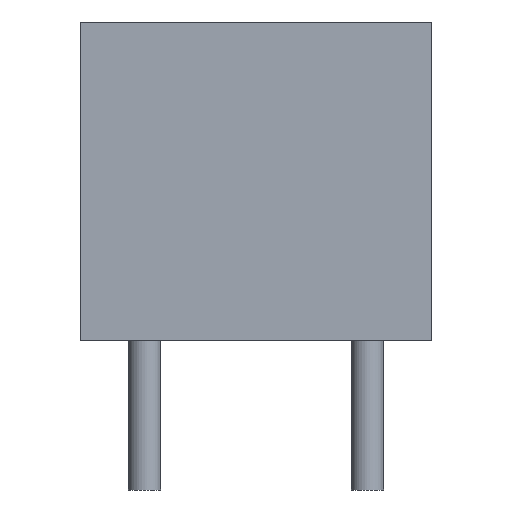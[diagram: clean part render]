
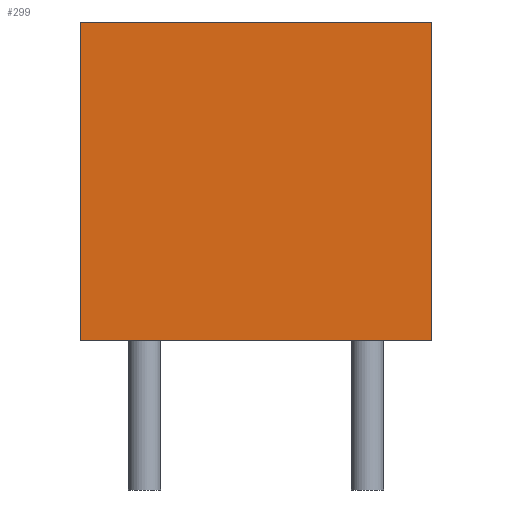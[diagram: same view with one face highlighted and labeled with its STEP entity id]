
A CAD part, left-side view. The second image highlights one B-rep face of the part: STEP entity #299.
In plain terms, the highlighted planar face has unit normal (-1, 0, 0).
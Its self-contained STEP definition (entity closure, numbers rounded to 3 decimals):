
#36 = EDGE_CURVE('',#37,#39,#41,.T.);
#37 = VERTEX_POINT('',#38);
#38 = CARTESIAN_POINT('',(-1.3,9.81,0.));
#39 = VERTEX_POINT('',#40);
#40 = CARTESIAN_POINT('',(-1.3,9.81,10.9));
#41 = SURFACE_CURVE('',#42,(#46,#58),.PCURVE_S1.);
#42 = LINE('',#43,#44);
#43 = CARTESIAN_POINT('',(-1.3,9.81,0.));
#44 = VECTOR('',#45,1.);
#45 = DIRECTION('',(0.,0.,1.));
#46 = PCURVE('',#47,#52);
#47 = PLANE('',#48);
#48 = AXIS2_PLACEMENT_3D('',#49,#50,#51);
#49 = CARTESIAN_POINT('',(-1.3,9.81,0.));
#50 = DIRECTION('',(0.,1.,0.));
#51 = DIRECTION('',(1.,0.,0.));
#52 = DEFINITIONAL_REPRESENTATION('',(#53),#57);
#53 = LINE('',#54,#55);
#54 = CARTESIAN_POINT('',(0.,0.));
#55 = VECTOR('',#56,1.);
#56 = DIRECTION('',(0.,-1.));
#57 = ( GEOMETRIC_REPRESENTATION_CONTEXT(2) 
PARAMETRIC_REPRESENTATION_CONTEXT() REPRESENTATION_CONTEXT('2D SPACE',''
  ) );
#58 = PCURVE('',#59,#64);
#59 = PLANE('',#60);
#60 = AXIS2_PLACEMENT_3D('',#61,#62,#63);
#61 = CARTESIAN_POINT('',(-1.3,-2.19,0.));
#62 = DIRECTION('',(-1.,0.,0.));
#63 = DIRECTION('',(0.,1.,0.));
#64 = DEFINITIONAL_REPRESENTATION('',(#65),#69);
#65 = LINE('',#66,#67);
#66 = CARTESIAN_POINT('',(12.,0.));
#67 = VECTOR('',#68,1.);
#68 = DIRECTION('',(0.,-1.));
#69 = ( GEOMETRIC_REPRESENTATION_CONTEXT(2) 
PARAMETRIC_REPRESENTATION_CONTEXT() REPRESENTATION_CONTEXT('2D SPACE',''
  ) );
#87 = PLANE('',#88);
#88 = AXIS2_PLACEMENT_3D('',#89,#90,#91);
#89 = CARTESIAN_POINT('',(12.7,3.81,10.9));
#90 = DIRECTION('',(-0.,-0.,-1.));
#91 = DIRECTION('',(-1.,0.,0.));
#141 = PLANE('',#142);
#142 = AXIS2_PLACEMENT_3D('',#143,#144,#145);
#143 = CARTESIAN_POINT('',(12.7,3.81,0.));
#144 = DIRECTION('',(-0.,-0.,-1.));
#145 = DIRECTION('',(-1.,0.,0.));
#196 = PLANE('',#197);
#197 = AXIS2_PLACEMENT_3D('',#198,#199,#200);
#198 = CARTESIAN_POINT('',(26.7,-2.19,0.));
#199 = DIRECTION('',(0.,-1.,0.));
#200 = DIRECTION('',(-1.,0.,0.));
#234 = VERTEX_POINT('',#235);
#235 = CARTESIAN_POINT('',(-1.3,-2.19,10.9));
#256 = EDGE_CURVE('',#257,#234,#259,.T.);
#257 = VERTEX_POINT('',#258);
#258 = CARTESIAN_POINT('',(-1.3,-2.19,0.));
#259 = SURFACE_CURVE('',#260,(#264,#271),.PCURVE_S1.);
#260 = LINE('',#261,#262);
#261 = CARTESIAN_POINT('',(-1.3,-2.19,0.));
#262 = VECTOR('',#263,1.);
#263 = DIRECTION('',(0.,0.,1.));
#264 = PCURVE('',#196,#265);
#265 = DEFINITIONAL_REPRESENTATION('',(#266),#270);
#266 = LINE('',#267,#268);
#267 = CARTESIAN_POINT('',(28.,0.));
#268 = VECTOR('',#269,1.);
#269 = DIRECTION('',(0.,-1.));
#270 = ( GEOMETRIC_REPRESENTATION_CONTEXT(2) 
PARAMETRIC_REPRESENTATION_CONTEXT() REPRESENTATION_CONTEXT('2D SPACE',''
  ) );
#271 = PCURVE('',#59,#272);
#272 = DEFINITIONAL_REPRESENTATION('',(#273),#277);
#273 = LINE('',#274,#275);
#274 = CARTESIAN_POINT('',(0.,0.));
#275 = VECTOR('',#276,1.);
#276 = DIRECTION('',(0.,-1.));
#277 = ( GEOMETRIC_REPRESENTATION_CONTEXT(2) 
PARAMETRIC_REPRESENTATION_CONTEXT() REPRESENTATION_CONTEXT('2D SPACE',''
  ) );
#299 = ADVANCED_FACE('',(#300),#59,.T.);
#300 = FACE_BOUND('',#301,.T.);
#301 = EDGE_LOOP('',(#302,#303,#324,#325));
#302 = ORIENTED_EDGE('',*,*,#256,.T.);
#303 = ORIENTED_EDGE('',*,*,#304,.T.);
#304 = EDGE_CURVE('',#234,#39,#305,.T.);
#305 = SURFACE_CURVE('',#306,(#310,#317),.PCURVE_S1.);
#306 = LINE('',#307,#308);
#307 = CARTESIAN_POINT('',(-1.3,-2.19,10.9));
#308 = VECTOR('',#309,1.);
#309 = DIRECTION('',(0.,1.,0.));
#310 = PCURVE('',#59,#311);
#311 = DEFINITIONAL_REPRESENTATION('',(#312),#316);
#312 = LINE('',#313,#314);
#313 = CARTESIAN_POINT('',(0.,-10.9));
#314 = VECTOR('',#315,1.);
#315 = DIRECTION('',(1.,0.));
#316 = ( GEOMETRIC_REPRESENTATION_CONTEXT(2) 
PARAMETRIC_REPRESENTATION_CONTEXT() REPRESENTATION_CONTEXT('2D SPACE',''
  ) );
#317 = PCURVE('',#87,#318);
#318 = DEFINITIONAL_REPRESENTATION('',(#319),#323);
#319 = LINE('',#320,#321);
#320 = CARTESIAN_POINT('',(14.,-6.));
#321 = VECTOR('',#322,1.);
#322 = DIRECTION('',(0.,1.));
#323 = ( GEOMETRIC_REPRESENTATION_CONTEXT(2) 
PARAMETRIC_REPRESENTATION_CONTEXT() REPRESENTATION_CONTEXT('2D SPACE',''
  ) );
#324 = ORIENTED_EDGE('',*,*,#36,.F.);
#325 = ORIENTED_EDGE('',*,*,#326,.F.);
#326 = EDGE_CURVE('',#257,#37,#327,.T.);
#327 = SURFACE_CURVE('',#328,(#332,#339),.PCURVE_S1.);
#328 = LINE('',#329,#330);
#329 = CARTESIAN_POINT('',(-1.3,-2.19,0.));
#330 = VECTOR('',#331,1.);
#331 = DIRECTION('',(0.,1.,0.));
#332 = PCURVE('',#59,#333);
#333 = DEFINITIONAL_REPRESENTATION('',(#334),#338);
#334 = LINE('',#335,#336);
#335 = CARTESIAN_POINT('',(0.,0.));
#336 = VECTOR('',#337,1.);
#337 = DIRECTION('',(1.,0.));
#338 = ( GEOMETRIC_REPRESENTATION_CONTEXT(2) 
PARAMETRIC_REPRESENTATION_CONTEXT() REPRESENTATION_CONTEXT('2D SPACE',''
  ) );
#339 = PCURVE('',#141,#340);
#340 = DEFINITIONAL_REPRESENTATION('',(#341),#345);
#341 = LINE('',#342,#343);
#342 = CARTESIAN_POINT('',(14.,-6.));
#343 = VECTOR('',#344,1.);
#344 = DIRECTION('',(0.,1.));
#345 = ( GEOMETRIC_REPRESENTATION_CONTEXT(2) 
PARAMETRIC_REPRESENTATION_CONTEXT() REPRESENTATION_CONTEXT('2D SPACE',''
  ) );
